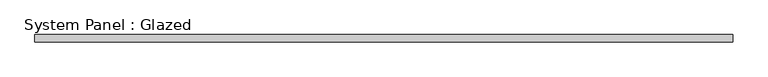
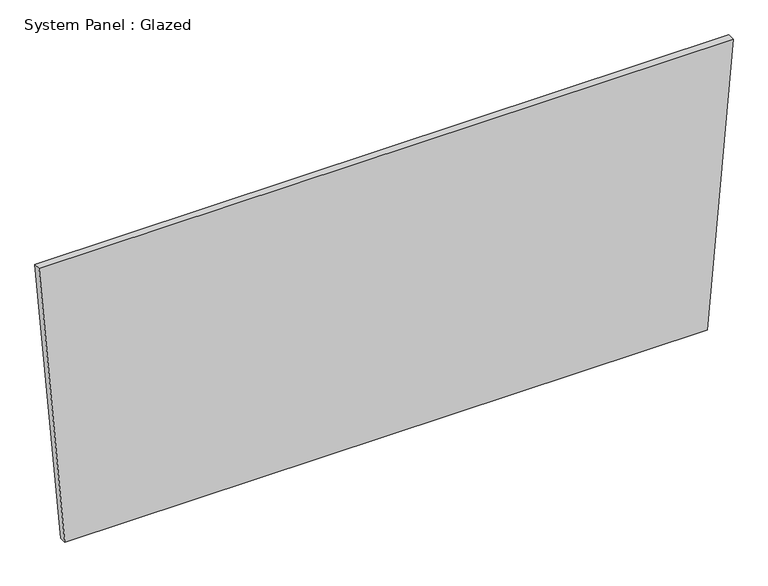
"""IFC4 building model written with IfcOpenShell, lengths in millimetres: plate geometry, System Panel : Glazed."""

from ifc_helpers import new_model, si_unit, frame, origin, place, context, project, spatial, polyline, outline, extrude, source, transform, mapped, element, save


def system_panel_glazed_2310db81(model_context):
    return source(origin(), model_context, "Body", "SweptSolid", [
        extrude(outline(polyline([(0.0, -1143.2306051), (0.0, 1143.2306051), (1062.8768936, 1234.636016), (1062.8768936, -1234.636016), (0.0, -1143.2306051)])), frame((0.0, -44.45, 0.0), z_axis=(0.0, 1.0, 0.0), x_axis=(0.0, 0.0, 1.0)), (0.0, 0.0, 1.0), 25.4),
    ])


if __name__ == "__main__":
    model = new_model("IFC4")
    model_context = context("Model", 3, world=origin())
    ifc_project = project(units=[si_unit("LENGTHUNIT", "METRE", prefix="MILLI")], contexts=[model_context])
    site = spatial("IfcSite", under=ifc_project)
    building = spatial("IfcBuilding", under=site)
    placement = place(None, origin())
    system_panel_glazed_shape = system_panel_glazed_2310db81(model_context)
    element("IfcPlate", 1, ObjectType="System Panel : Glazed", at=placement, inside=building, context=model_context, shape_type="MappedRepresentation", body=[
        mapped(system_panel_glazed_shape, transform((0.0, 0.0, 0.0), x_axis=(1.0, 0.0, 0.0), y_axis=(0.0, 1.0, 0.0), z_axis=(0.0, 0.0, 1.0))),
    ])
    save(model, "model.ifc")
